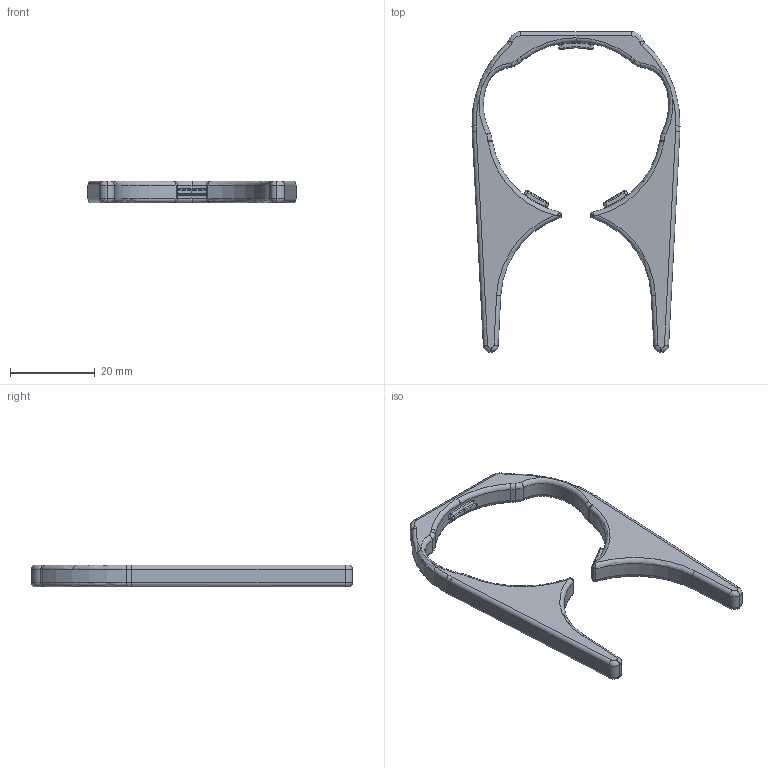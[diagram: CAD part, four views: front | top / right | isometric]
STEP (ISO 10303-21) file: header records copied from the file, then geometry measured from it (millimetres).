
FILE_DESCRIPTION(/* description */ (''),/* implementation_level */ '2;1');
FILE_NAME(/* name */ 'Ari Arms - challenge mats.step',/* time_stamp */ '2025-08-19T12:37:39-07:00',/* author */ (''),/* organization */ (''),/* preprocessor_version */ 'ST-DEVELOPER v20.1',/* originating_system */ 'Autodesk Translation Framework v14.10.0.0',/* authorisation */ '');
FILE_SCHEMA (('AUTOMOTIVE_DESIGN { 1 0 10303 214 3 1 1 }'));
Length unit declared in the file: millimetre
Products named in the file (2): Ari Arms - challenge mats; Arms
Assembly tree (1 placements, depth 2):
  Ari Arms - challenge mats
    Arms
Bounding box: 49.19 x 75.81 x 5.2 mm (x, y, z)
Volume: 5459.5 mm3; surface area: 3917.7 mm2
Topology: 1 solids, 1 shells, 180 faces, 416 edges, 240 vertices
Faces by surface type: cylinder 58, torus 52, bspline 46, plane 24
Entity records: 7906 total; most frequent: CARTESIAN_POINT 3966, ORIENTED_EDGE 832, DIRECTION 769, EDGE_CURVE 416, AXIS2_PLACEMENT_3D 337, VERTEX_POINT 240, CIRCLE 196, EDGE_LOOP 182
